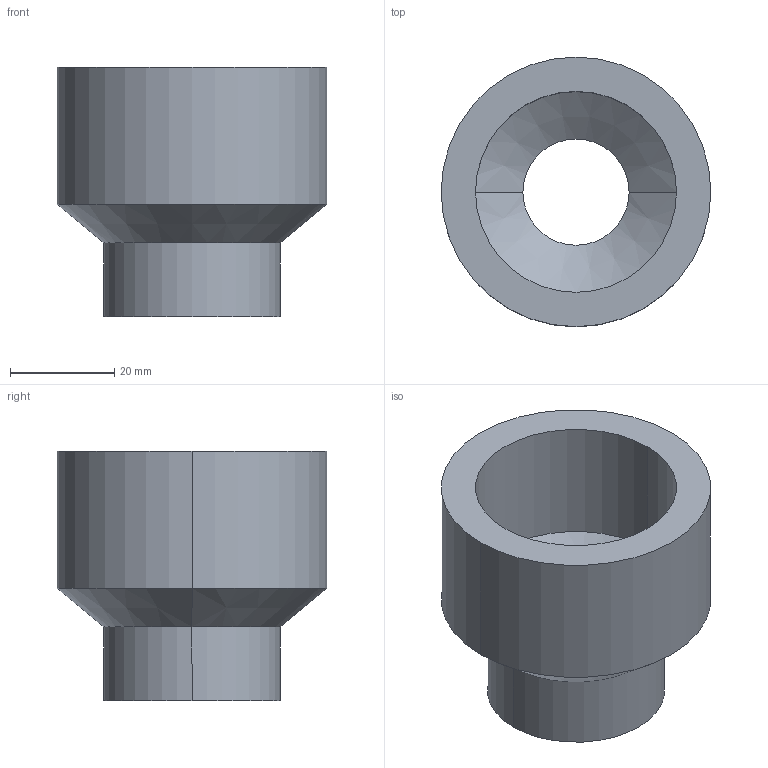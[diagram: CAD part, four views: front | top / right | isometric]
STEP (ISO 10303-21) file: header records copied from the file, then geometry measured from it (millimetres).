
FILE_DESCRIPTION (( 'STEP AP203' ), '1' );
FILE_NAME ('PMR05 FADO.STEP', '2022-08-23T10:22:10', ( '' ), ( '' ), 'SwSTEP 2.0', 'SolidWorks 2021', '' );
FILE_SCHEMA (( 'CONFIG_CONTROL_DESIGN' ));
Length unit declared in the file: millimetre
Products named in the file (1): PMR05 FADO
Bounding box: 51.8 x 51.8 x 47.9 mm (x, y, z)
Volume: 38753.7 mm3; surface area: 14129.9 mm2
Topology: 1 solids, 1 shells, 17 faces, 34 edges, 20 vertices
Faces by surface type: cylinder 10, cone 4, plane 3
Entity records: 525 total; most frequent: DIRECTION 90, CARTESIAN_POINT 72, ORIENTED_EDGE 68, AXIS2_PLACEMENT_3D 38, EDGE_CURVE 34, VERTEX_POINT 20, EDGE_LOOP 20, CIRCLE 20
